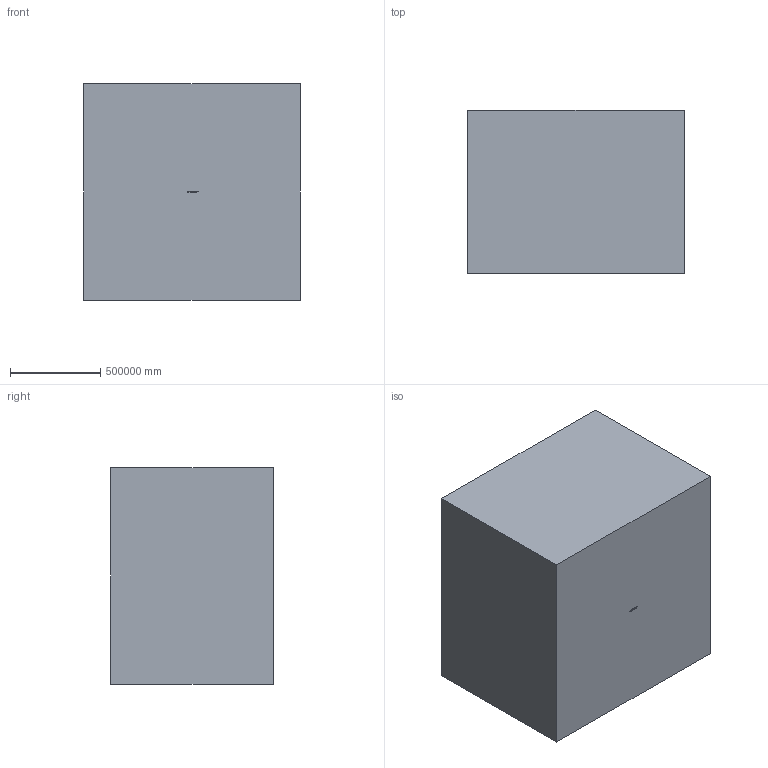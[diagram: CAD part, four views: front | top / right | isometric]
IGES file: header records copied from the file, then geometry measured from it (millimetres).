
Start section: START RECORD GO HERE.
Global section: file name: DPW7_CRM_wbt_182_2.75deg_02_03_2021__WeP.igs; native system: DASSAULT SYSTEMES CATIA Version 5-6 Release 2017 - www.3ds.com; preprocessor: V5-6R2017_5.27.4.0.11-29-2017.10.50; author: wege_pa; organization: DLR; date: 20210303.114623; units: millimetre
Bounding box: 1200000 x 900000 x 1200000 mm (x, y, z)
Surface area: 7200682355161.6 mm2 (no closed solid volume)
Topology: 0 solids, 0 shells, 45 faces, 316 edges, 316 vertices
Faces by surface type: bspline 34, plane 6, extrusion 5
